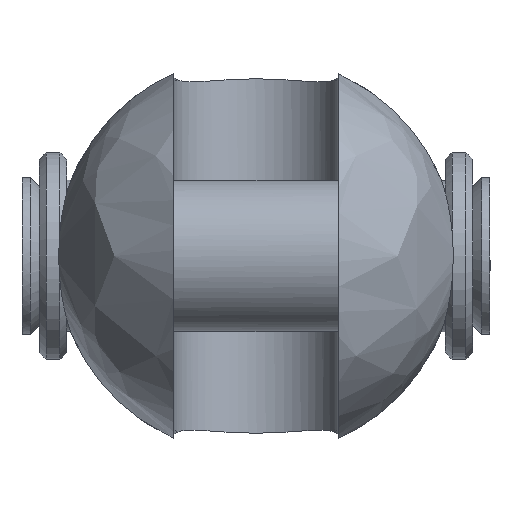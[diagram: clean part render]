
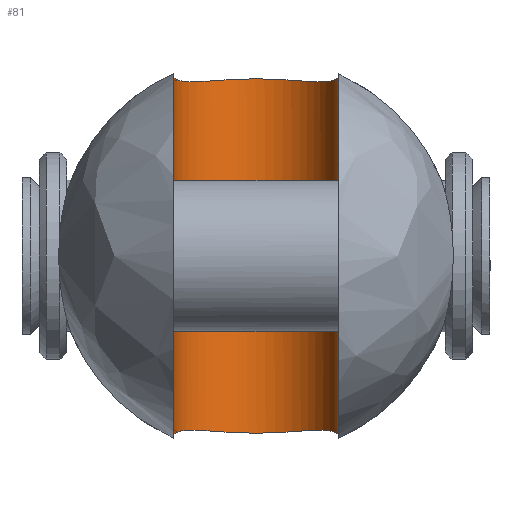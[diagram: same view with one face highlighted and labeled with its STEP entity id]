
A CAD part, left-side view. The second image highlights one B-rep face of the part: STEP entity #81.
In plain terms, the highlighted cylindrical face has radius 6 mm (diameter 12 mm), a partial arc.
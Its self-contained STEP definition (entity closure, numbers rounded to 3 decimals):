
#81=ADVANCED_FACE('',(#156),#1278,.F.);
#156=FACE_OUTER_BOUND('',#239,.T.);
#239=EDGE_LOOP('',(#511,#512,#513,#514,#515,#516,#517,#518));
#511=ORIENTED_EDGE('',*,*,#803,.F.);
#512=ORIENTED_EDGE('',*,*,#804,.F.);
#513=ORIENTED_EDGE('',*,*,#820,.F.);
#514=ORIENTED_EDGE('',*,*,#805,.F.);
#515=ORIENTED_EDGE('',*,*,#806,.F.);
#516=ORIENTED_EDGE('',*,*,#807,.F.);
#517=ORIENTED_EDGE('',*,*,#823,.F.);
#518=ORIENTED_EDGE('',*,*,#802,.F.);
#802=EDGE_CURVE('',#1181,#1182,#936,.T.);
#803=EDGE_CURVE('',#1183,#1181,#937,.T.);
#804=EDGE_CURVE('',#1184,#1183,#938,.T.);
#805=EDGE_CURVE('',#1186,#1185,#939,.T.);
#806=EDGE_CURVE('',#1187,#1186,#940,.T.);
#807=EDGE_CURVE('',#1188,#1187,#941,.T.);
#820=EDGE_CURVE('',#1185,#1184,#946,.T.);
#823=EDGE_CURVE('',#1182,#1188,#947,.T.);
#936=B_SPLINE_CURVE_WITH_KNOTS('',3,(#2884,#2885,#2886,#2887),
 .UNSPECIFIED.,.F.,.F.,(4,4),(-1.975,0.),.UNSPECIFIED.);
#937=B_SPLINE_CURVE_WITH_KNOTS('',1,(#2888,#2889),.UNSPECIFIED.,.F.,.F.,
(2,2),(-26.101,0.),.UNSPECIFIED.);
#938=B_SPLINE_CURVE_WITH_KNOTS('',3,(#2890,#2891,#2892,#2893),
 .UNSPECIFIED.,.F.,.F.,(4,4),(-1.975,0.),.UNSPECIFIED.);
#939=B_SPLINE_CURVE_WITH_KNOTS('',3,(#2894,#2895,#2896,#2897),
 .UNSPECIFIED.,.F.,.F.,(4,4),(-1.975,0.),.UNSPECIFIED.);
#940=B_SPLINE_CURVE_WITH_KNOTS('',1,(#2898,#2899),.UNSPECIFIED.,.F.,.F.,
(2,2),(-26.101,0.),.UNSPECIFIED.);
#941=B_SPLINE_CURVE_WITH_KNOTS('',3,(#2900,#2901,#2902,#2903),
 .UNSPECIFIED.,.F.,.F.,(4,4),(-1.975,0.),.UNSPECIFIED.);
#946=B_SPLINE_CURVE_WITH_KNOTS('',3,(#2940,#2941,#2942,#2943,#2944,#2945,
#2946,#2947,#2948,#2949,#2950,#2951,#2952,#2953,#2954,#2955,#2956,#2957),
 .UNSPECIFIED.,.F.,.F.,(4,2,2,2,2,2,2,2,4),(0.,0.899,3.1,
5.316,7.531,9.746,11.961,14.162,
15.061),.UNSPECIFIED.);
#947=B_SPLINE_CURVE_WITH_KNOTS('',3,(#2964,#2965,#2966,#2967,#2968,#2969,
#2970,#2971,#2972,#2973,#2974,#2975,#2976,#2977,#2978,#2979,#2980,#2981),
 .UNSPECIFIED.,.F.,.F.,(4,2,2,2,2,2,2,2,4),(0.,0.899,3.1,
5.316,7.531,9.746,11.961,14.162,
15.061),.UNSPECIFIED.);
#1181=VERTEX_POINT('',#2827);
#1182=VERTEX_POINT('',#2828);
#1183=VERTEX_POINT('',#2829);
#1184=VERTEX_POINT('',#2830);
#1185=VERTEX_POINT('',#2831);
#1186=VERTEX_POINT('',#2832);
#1187=VERTEX_POINT('',#2833);
#1188=VERTEX_POINT('',#2834);
#1278=CYLINDRICAL_SURFACE('',#1434,6.);
#1434=AXIS2_PLACEMENT_3D('',#2332,#1488,$);
#1488=DIRECTION('',(0.,0.,1.));
#2332=CARTESIAN_POINT('',(20.,0.,0.));
#2827=CARTESIAN_POINT('',(20.,6.,13.05));
#2828=CARTESIAN_POINT('',(21.911,5.688,12.757));
#2829=CARTESIAN_POINT('',(20.,6.,-13.05));
#2830=CARTESIAN_POINT('',(21.911,5.688,-12.757));
#2831=CARTESIAN_POINT('',(21.911,-5.688,-12.757));
#2832=CARTESIAN_POINT('',(20.,-6.,-13.05));
#2833=CARTESIAN_POINT('',(20.,-6.,13.05));
#2834=CARTESIAN_POINT('',(21.911,-5.688,12.757));
#2884=CARTESIAN_POINT('',(20.,6.,13.05));
#2885=CARTESIAN_POINT('',(20.624,6.,12.956));
#2886=CARTESIAN_POINT('',(21.283,5.899,12.854));
#2887=CARTESIAN_POINT('',(21.911,5.688,12.757));
#2888=CARTESIAN_POINT('',(20.,6.,-13.05));
#2889=CARTESIAN_POINT('',(20.,6.,13.05));
#2890=CARTESIAN_POINT('',(21.911,5.688,-12.757));
#2891=CARTESIAN_POINT('',(21.283,5.899,-12.854));
#2892=CARTESIAN_POINT('',(20.624,6.,-12.956));
#2893=CARTESIAN_POINT('',(20.,6.,-13.05));
#2894=CARTESIAN_POINT('',(20.,-6.,-13.05));
#2895=CARTESIAN_POINT('',(20.624,-6.,-12.956));
#2896=CARTESIAN_POINT('',(21.283,-5.899,-12.854));
#2897=CARTESIAN_POINT('',(21.911,-5.688,-12.757));
#2898=CARTESIAN_POINT('',(20.,-6.,13.05));
#2899=CARTESIAN_POINT('',(20.,-6.,-13.05));
#2900=CARTESIAN_POINT('',(21.911,-5.688,12.757));
#2901=CARTESIAN_POINT('',(21.283,-5.899,12.854));
#2902=CARTESIAN_POINT('',(20.624,-6.,12.956));
#2903=CARTESIAN_POINT('',(20.,-6.,13.05));
#2940=CARTESIAN_POINT('',(21.911,-5.688,-12.757));
#2941=CARTESIAN_POINT('',(22.193,-5.593,-12.713));
#2942=CARTESIAN_POINT('',(22.471,-5.476,-12.68));
#2943=CARTESIAN_POINT('',(23.397,-5.,-12.6));
#2944=CARTESIAN_POINT('',(23.994,-4.532,-12.606));
#2945=CARTESIAN_POINT('',(24.929,-3.492,-12.663));
#2946=CARTESIAN_POINT('',(25.334,-2.848,-12.716));
#2947=CARTESIAN_POINT('',(25.869,-1.453,-12.8));
#2948=CARTESIAN_POINT('',(26.,-0.702,-12.827));
#2949=CARTESIAN_POINT('',(26.,0.702,-12.827));
#2950=CARTESIAN_POINT('',(25.869,1.453,-12.8));
#2951=CARTESIAN_POINT('',(25.334,2.848,-12.716));
#2952=CARTESIAN_POINT('',(24.929,3.492,-12.663));
#2953=CARTESIAN_POINT('',(23.994,4.532,-12.606));
#2954=CARTESIAN_POINT('',(23.397,5.,-12.6));
#2955=CARTESIAN_POINT('',(22.471,5.476,-12.68));
#2956=CARTESIAN_POINT('',(22.193,5.593,-12.713));
#2957=CARTESIAN_POINT('',(21.911,5.688,-12.757));
#2964=CARTESIAN_POINT('',(21.911,5.688,12.757));
#2965=CARTESIAN_POINT('',(22.193,5.593,12.713));
#2966=CARTESIAN_POINT('',(22.471,5.476,12.68));
#2967=CARTESIAN_POINT('',(23.397,5.,12.6));
#2968=CARTESIAN_POINT('',(23.994,4.532,12.606));
#2969=CARTESIAN_POINT('',(24.929,3.492,12.663));
#2970=CARTESIAN_POINT('',(25.334,2.848,12.716));
#2971=CARTESIAN_POINT('',(25.869,1.453,12.8));
#2972=CARTESIAN_POINT('',(26.,0.702,12.827));
#2973=CARTESIAN_POINT('',(26.,-0.702,12.827));
#2974=CARTESIAN_POINT('',(25.869,-1.453,12.8));
#2975=CARTESIAN_POINT('',(25.334,-2.848,12.716));
#2976=CARTESIAN_POINT('',(24.929,-3.492,12.663));
#2977=CARTESIAN_POINT('',(23.994,-4.532,12.606));
#2978=CARTESIAN_POINT('',(23.397,-5.,12.6));
#2979=CARTESIAN_POINT('',(22.471,-5.476,12.68));
#2980=CARTESIAN_POINT('',(22.193,-5.593,12.713));
#2981=CARTESIAN_POINT('',(21.911,-5.688,12.757));
